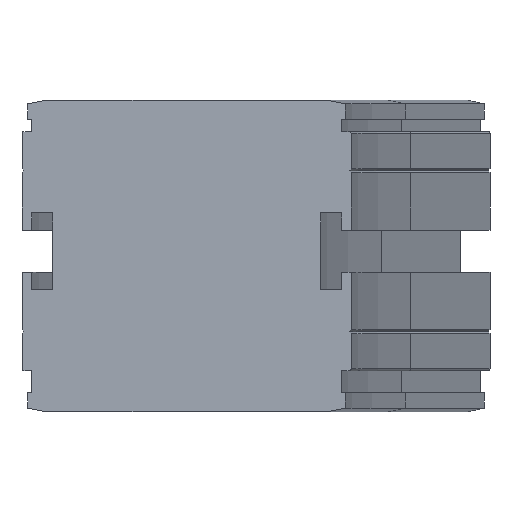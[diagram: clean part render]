
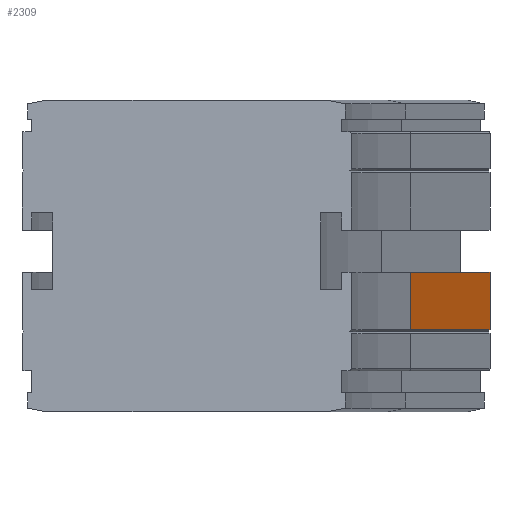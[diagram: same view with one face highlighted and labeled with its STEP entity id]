
A CAD part, left-side view. The second image highlights one B-rep face of the part: STEP entity #2309.
In plain terms, the highlighted planar face has unit normal (-0.259, -0.966, 0).
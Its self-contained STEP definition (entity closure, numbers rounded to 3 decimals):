
#2253=CARTESIAN_POINT('',(275.554,-79.277,-60.));
#2254=VERTEX_POINT('',#2253);
#2261=CARTESIAN_POINT('',(198.28,-58.572,-60.));
#2262=VERTEX_POINT('',#2261);
#2263=CARTESIAN_POINT('',(198.28,-58.572,-60.));
#2264=DIRECTION('',(0.966,-0.259,0.0));
#2265=VECTOR('',#2264,80.);
#2266=LINE('',#2263,#2265);
#2267=EDGE_CURVE('',#2262,#2254,#2266,.T.);
#2279=CARTESIAN_POINT('',(198.28,-58.572,-60.));
#2280=DIRECTION('',(-0.259,-0.966,0.0));
#2281=DIRECTION('',(0.0,0.0,-1.0));
#2282=AXIS2_PLACEMENT_3D('',#2279,#2280,#2281);
#2283=PLANE('',#2282);
#2284=CARTESIAN_POINT('',(275.554,-79.277,-45.));
#2285=VERTEX_POINT('',#2284);
#2286=CARTESIAN_POINT('',(275.554,-79.277,-60.));
#2287=DIRECTION('',(0.0,0.0,1.0));
#2288=VECTOR('',#2287,15.0);
#2289=LINE('',#2286,#2288);
#2290=EDGE_CURVE('',#2254,#2285,#2289,.T.);
#2291=ORIENTED_EDGE('',*,*,#2290,.T.);
#2292=CARTESIAN_POINT('',(198.28,-58.572,-45.));
#2293=VERTEX_POINT('',#2292);
#2294=CARTESIAN_POINT('',(198.28,-58.572,-45.));
#2295=DIRECTION('',(0.966,-0.259,0.0));
#2296=VECTOR('',#2295,80.);
#2297=LINE('',#2294,#2296);
#2298=EDGE_CURVE('',#2293,#2285,#2297,.T.);
#2299=ORIENTED_EDGE('',*,*,#2298,.F.);
#2300=CARTESIAN_POINT('',(198.28,-58.572,-60.));
#2301=DIRECTION('',(0.0,0.0,1.0));
#2302=VECTOR('',#2301,15.0);
#2303=LINE('',#2300,#2302);
#2304=EDGE_CURVE('',#2262,#2293,#2303,.T.);
#2305=ORIENTED_EDGE('',*,*,#2304,.F.);
#2306=ORIENTED_EDGE('',*,*,#2267,.T.);
#2307=EDGE_LOOP('',(#2291,#2299,#2305,#2306));
#2308=FACE_OUTER_BOUND('',#2307,.T.);
#2309=ADVANCED_FACE('',(#2308),#2283,.T.);
